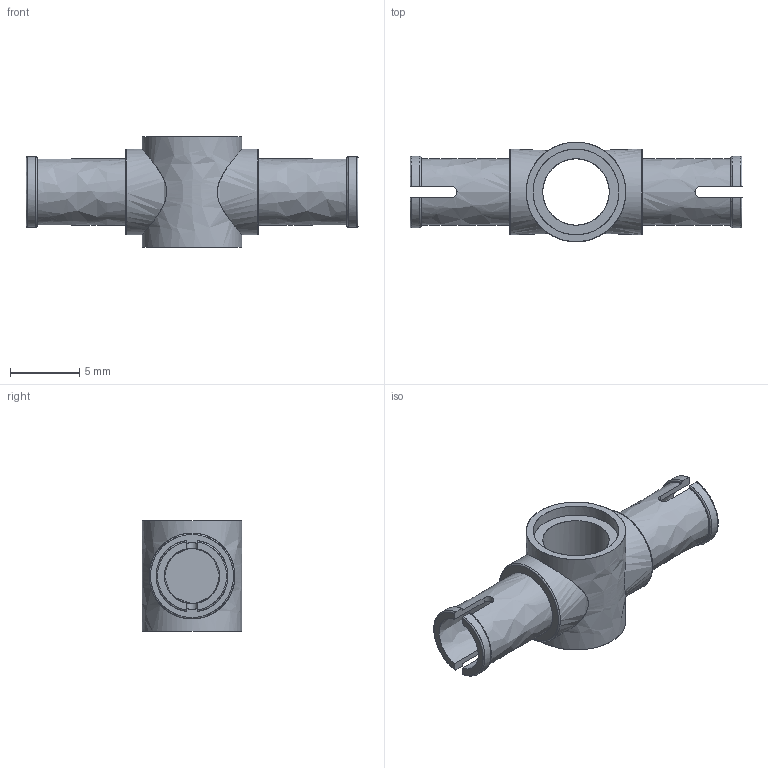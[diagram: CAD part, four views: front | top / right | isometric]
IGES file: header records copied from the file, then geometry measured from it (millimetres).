
Start section: C
Global section: file name: ClGray_4560175_AVV.iges; native system: By Siemens PLM Incorporated; preprocessor: XPlus GENERIC/IGES 26.1.183; author: Author; organization: Title; date: 20250721.235712; units: millimetre
Bounding box: 24 x 7.2 x 8 mm (x, y, z)
Surface area: 842.7 mm2 (no closed solid volume)
Topology: 0 solids, 0 shells, 54 faces, 432 edges, 432 vertices
Faces by surface type: bspline 54
